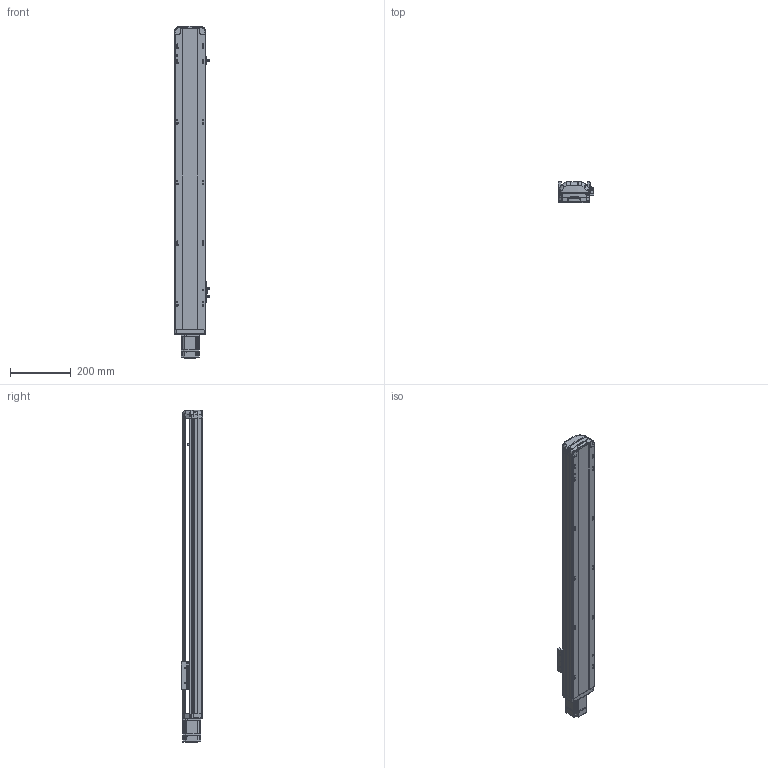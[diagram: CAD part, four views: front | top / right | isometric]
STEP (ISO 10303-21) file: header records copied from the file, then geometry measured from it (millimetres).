
FILE_DESCRIPTION (( 'STEP AP214' ), '1' );
FILE_NAME ('RTH10-XX-750-E-M20-C4.STEP', '2025-10-24T10:46:56', ( '' ), ( '' ), 'SwSTEP 2.0', 'SolidWorks 2018', '' );
FILE_SCHEMA (( 'AUTOMOTIVE_DESIGN' ));
Length unit declared in the file: millimetre
Products named in the file (9): N_RTH12-E-007P-奻裔^RTH10-XX-XX-E-M20-C4ㄗ源最宒ㄘ; N_OMRON EE-SX672 換覜ん^RTH10-XX-XX-E-M20-C4ㄗ源最宒ㄘ; RTH10-XX-750-E-M20-C4; N_RTH13-L-012感应片外置^RTH10-XX-XX-E-M20-C4（方程式）; N_200W-1^RTH10-XX-XX-E-M20-C4（方程式）; N_RTH12-E-008-M20电机板^RTH10-XX-XX-E-M20-C4（方程式）; N_RTH12-GY-001P^RTH10-XX-XX-E-M20-C4（方程式）; N_RTH12-GY-004-滑座^RTH10-XX-XX-E-M20-C4（方程式）; N_RTH12-E-011P-臏倰第菁釱^RTH10-XX-XX-E-M20-C4ㄗ源最宒ㄘ
Assembly tree (10 placements, depth 2):
  RTH10-XX-750-E-M20-C4
    N_RTH12-E-011P-臏倰第菁釱^RTH10-XX-XX-E-M20-C4ㄗ源最宒ㄘ
    N_RTH13-L-012感应片外置^RTH10-XX-XX-E-M20-C4（方程式）
    N_OMRON EE-SX672 換覜ん^RTH10-XX-XX-E-M20-C4ㄗ源最宒ㄘ  x3
    N_RTH12-E-007P-奻裔^RTH10-XX-XX-E-M20-C4ㄗ源最宒ㄘ
    N_RTH12-GY-001P^RTH10-XX-XX-E-M20-C4（方程式）
    N_RTH12-GY-004-滑座^RTH10-XX-XX-E-M20-C4（方程式）
    N_200W-1^RTH10-XX-XX-E-M20-C4（方程式）
    N_RTH12-E-008-M20电机板^RTH10-XX-XX-E-M20-C4（方程式）
Bounding box: 116.5 x 70 x 1095.31 mm (x, y, z)
Volume: 4167435.8 mm3; surface area: 648185 mm2
Topology: 9 solids, 11 shells, 2028 faces, 5650 edges, 3710 vertices
Faces by surface type: plane 1012, cylinder 509, bspline 472, cone 33, torus 2
Entity records: 61252 total; most frequent: CARTESIAN_POINT 23746, ORIENTED_EDGE 8380, DIRECTION 6546, EDGE_CURVE 4196, VERTEX_POINT 2754, LINE 2254, VECTOR 2254, AXIS2_PLACEMENT_3D 2146
